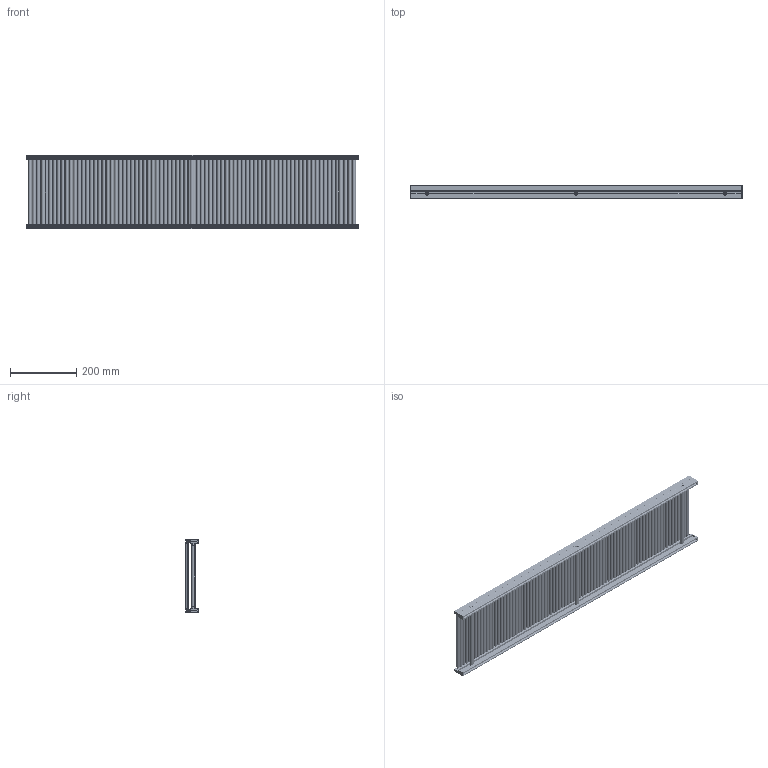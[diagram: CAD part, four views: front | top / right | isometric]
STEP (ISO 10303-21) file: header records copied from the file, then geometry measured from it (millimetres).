
FILE_DESCRIPTION (( 'STEP AP203' ), '1' );
FILE_NAME ('RS-1010.STEP', '2026-07-02T08:32:15', ( '' ), ( '' ), 'SwSTEP 2.0', 'SolidWorks 2023', '' );
FILE_SCHEMA (( 'CONFIG_CONTROL_DESIGN' ));
Length unit declared in the file: millimetre
Products named in the file (6): 軸Φ5(213L); パイプ支手φ12(207L); CAP5-15; RS-1010; ローラφ10(200W); フレームS□38x14(レーン)_P12.4
Assembly tree (171 placements, depth 2):
  RS-1010
    フレームS□38x14(レーン)_P12.4  x2
    パイプ支手φ12(207L)  x3
    CAP5-15  x6
    ローラφ10(200W)  x80
    軸Φ5(213L)  x80
Bounding box: 1004 x 39 x 223 mm (x, y, z)
Volume: 1926981.7 mm3; surface area: 1622793.7 mm2
Topology: 179 solids, 179 shells, 2960 faces, 6608 edges, 4166 vertices
Faces by surface type: plane 1246, cylinder 1050, torus 640, cone 24
Entity records: 21876 total; most frequent: CARTESIAN_POINT 3028, DIRECTION 3000, ORIENTED_EDGE 2796, EDGE_CURVE 1398, LINE 1110, VECTOR 1110, AXIS2_PLACEMENT_3D 945, VERTEX_POINT 925
